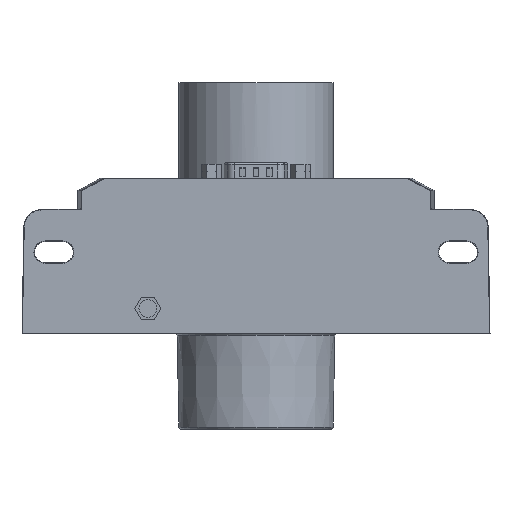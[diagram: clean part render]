
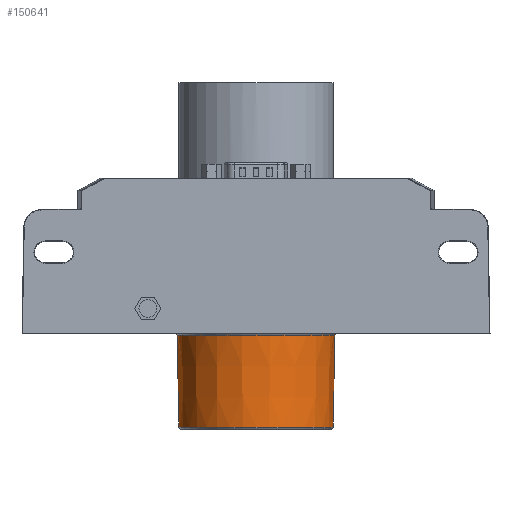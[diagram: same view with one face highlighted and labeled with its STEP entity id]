
A CAD part, front view. The second image highlights one B-rep face of the part: STEP entity #150641.
In plain terms, the highlighted conical face has half-angle 1 degrees and reference radius 21.75 mm.
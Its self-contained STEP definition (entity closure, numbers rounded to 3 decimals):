
#19865 = CARTESIAN_POINT ( 'NONE',  ( -22.213, 0., -44.341 ) ) ;
#20426 = CARTESIAN_POINT ( 'NONE',  ( 0., 0., -70.162 ) ) ;
#29887 = EDGE_CURVE ( 'NONE', #64889, #75295, #158168, .T. ) ;
#30424 = AXIS2_PLACEMENT_3D ( 'NONE', #146625, #47874, #96801 ) ;
#38915 = EDGE_LOOP ( 'NONE', ( #65704, #155697, #63163, #76796 ) ) ;
#39649 = EDGE_CURVE ( 'NONE', #141328, #75295, #55791, .T. ) ;
#39960 = DIRECTION ( 'NONE',  ( 0.017, 0., 1. ) ) ;
#40608 = DIRECTION ( 'NONE',  ( 0., 0., 1. ) ) ;
#42717 = CARTESIAN_POINT ( 'NONE',  ( 21.762, 0., -70.162 ) ) ;
#43547 = DIRECTION ( 'NONE',  ( -0.017, 0., 1. ) ) ;
#47874 = DIRECTION ( 'NONE',  ( 0., 0., -1. ) ) ;
#55431 = CARTESIAN_POINT ( 'NONE',  ( 22.213, 0., -44.341 ) ) ;
#55791 = LINE ( 'NONE', #155320, #140008 ) ;
#63163 = ORIENTED_EDGE ( 'NONE', *, *, #128463, .T. ) ;
#64889 = VERTEX_POINT ( 'NONE', #55431 ) ;
#65234 = CARTESIAN_POINT ( 'NONE',  ( 21.75, 0., -70.85 ) ) ;
#65704 = ORIENTED_EDGE ( 'NONE', *, *, #39649, .F. ) ;
#75270 = AXIS2_PLACEMENT_3D ( 'NONE', #20426, #159076, #123174 ) ;
#75295 = VERTEX_POINT ( 'NONE', #19865 ) ;
#76796 = ORIENTED_EDGE ( 'NONE', *, *, #29887, .T. ) ;
#79678 = AXIS2_PLACEMENT_3D ( 'NONE', #152406, #40608, #135139 ) ;
#93540 = FACE_OUTER_BOUND ( 'NONE', #38915, .T. ) ;
#95295 = CONICAL_SURFACE ( 'NONE', #79678, 21.75, 0.017 ) ;
#96801 = DIRECTION ( 'NONE',  ( 1., 0., 0. ) ) ;
#96829 = EDGE_CURVE ( 'NONE', #141328, #121455, #98682, .T. ) ;
#98682 = CIRCLE ( 'NONE', #75270, 21.762 ) ;
#121455 = VERTEX_POINT ( 'NONE', #42717 ) ;
#123174 = DIRECTION ( 'NONE',  ( -1., 0., 0. ) ) ;
#128463 = EDGE_CURVE ( 'NONE', #121455, #64889, #137108, .T. ) ;
#135139 = DIRECTION ( 'NONE',  ( 1., 0., 0. ) ) ;
#137108 = LINE ( 'NONE', #65234, #147998 ) ;
#140008 = VECTOR ( 'NONE', #43547, 1000. ) ;
#141328 = VERTEX_POINT ( 'NONE', #148032 ) ;
#146625 = CARTESIAN_POINT ( 'NONE',  ( 0., 0., -44.341 ) ) ;
#147998 = VECTOR ( 'NONE', #39960, 1000. ) ;
#148032 = CARTESIAN_POINT ( 'NONE',  ( -21.762, 0., -70.162 ) ) ;
#150641 = ADVANCED_FACE ( 'NONE', ( #93540 ), #95295, .T. ) ;
#152406 = CARTESIAN_POINT ( 'NONE',  ( 0., 0., -70.85 ) ) ;
#155320 = CARTESIAN_POINT ( 'NONE',  ( -21.75, 0., -70.85 ) ) ;
#155697 = ORIENTED_EDGE ( 'NONE', *, *, #96829, .T. ) ;
#158168 = CIRCLE ( 'NONE', #30424, 22.213 ) ;
#159076 = DIRECTION ( 'NONE',  ( 0., 0., 1. ) ) ;
